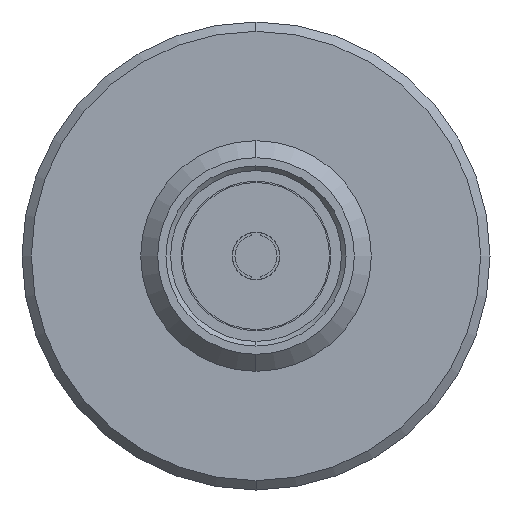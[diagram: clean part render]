
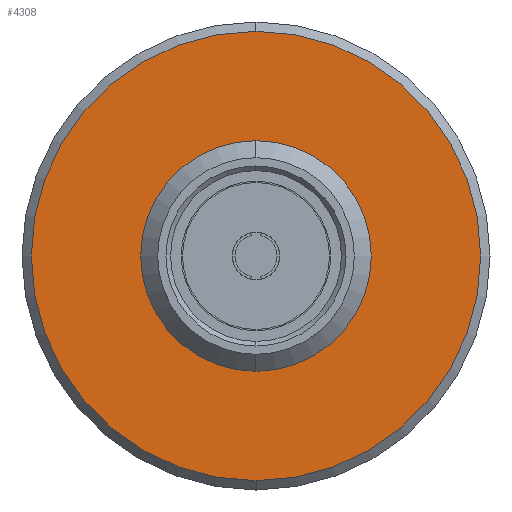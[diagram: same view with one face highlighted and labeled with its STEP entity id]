
A CAD part, left-side view. The second image highlights one B-rep face of the part: STEP entity #4308.
In plain terms, the highlighted planar face has unit normal (-1, 0, 0).
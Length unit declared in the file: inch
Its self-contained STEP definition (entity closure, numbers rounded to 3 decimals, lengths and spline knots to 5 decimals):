
#60 = CARTESIAN_POINT ( 'NONE',  ( 0.24, 0., 0. ) ) ;
#61 = CIRCLE ( 'NONE', #1225, 0.24 ) ;
#207 = EDGE_CURVE ( 'NONE', #3097, #3388, #2801, .T. ) ;
#336 = EDGE_LOOP ( 'NONE', ( #721, #2472 ) ) ;
#362 = DIRECTION ( 'NONE',  ( -1., 0., 0. ) ) ;
#414 = CIRCLE ( 'NONE', #688, 0.105 ) ;
#600 = EDGE_CURVE ( 'NONE', #3388, #3097, #414, .T. ) ;
#688 = AXIS2_PLACEMENT_3D ( 'NONE', #1890, #4198, #2234 ) ;
#721 = ORIENTED_EDGE ( 'NONE', *, *, #207, .F. ) ;
#834 = PLANE ( 'NONE',  #4029 ) ;
#898 = CARTESIAN_POINT ( 'NONE',  ( 0.24, 0., 0.24 ) ) ;
#1059 = ORIENTED_EDGE ( 'NONE', *, *, #4044, .T. ) ;
#1129 = EDGE_LOOP ( 'NONE', ( #1059, #2243 ) ) ;
#1157 = CARTESIAN_POINT ( 'NONE',  ( 0.24, 0.24, 0. ) ) ;
#1172 = DIRECTION ( 'NONE',  ( 1., 0., 0. ) ) ;
#1225 = AXIS2_PLACEMENT_3D ( 'NONE', #3482, #1490, #3821 ) ;
#1337 = CIRCLE ( 'NONE', #2796, 0.24 ) ;
#1417 = EDGE_CURVE ( 'NONE', #1555, #2780, #61, .T. ) ;
#1459 = FACE_OUTER_BOUND ( 'NONE', #1129, .T. ) ;
#1490 = DIRECTION ( 'NONE',  ( -1., 0., 0. ) ) ;
#1555 = VERTEX_POINT ( 'NONE', #898 ) ;
#1694 = AXIS2_PLACEMENT_3D ( 'NONE', #60, #2104, #4075 ) ;
#1890 = CARTESIAN_POINT ( 'NONE',  ( 0.24, 0., 0. ) ) ;
#2104 = DIRECTION ( 'NONE',  ( -1., 0., 0. ) ) ;
#2234 = DIRECTION ( 'NONE',  ( 0., 0., 1. ) ) ;
#2243 = ORIENTED_EDGE ( 'NONE', *, *, #1417, .T. ) ;
#2307 = FACE_BOUND ( 'NONE', #336, .T. ) ;
#2398 = CARTESIAN_POINT ( 'NONE',  ( 0.24, 0., 0. ) ) ;
#2472 = ORIENTED_EDGE ( 'NONE', *, *, #600, .F. ) ;
#2732 = DIRECTION ( 'NONE',  ( 0., 0., 1. ) ) ;
#2780 = VERTEX_POINT ( 'NONE', #3304 ) ;
#2796 = AXIS2_PLACEMENT_3D ( 'NONE', #2398, #362, #2732 ) ;
#2801 = CIRCLE ( 'NONE', #1694, 0.105 ) ;
#3097 = VERTEX_POINT ( 'NONE', #3859 ) ;
#3304 = CARTESIAN_POINT ( 'NONE',  ( 0.24, 0., -0.24 ) ) ;
#3357 = CARTESIAN_POINT ( 'NONE',  ( 0.24, 0., -0.105 ) ) ;
#3388 = VERTEX_POINT ( 'NONE', #3357 ) ;
#3482 = CARTESIAN_POINT ( 'NONE',  ( 0.24, 0., 0. ) ) ;
#3509 = DIRECTION ( 'NONE',  ( 0., 0., -1. ) ) ;
#3821 = DIRECTION ( 'NONE',  ( 0., 0., 1. ) ) ;
#3859 = CARTESIAN_POINT ( 'NONE',  ( 0.24, 0., 0.105 ) ) ;
#4029 = AXIS2_PLACEMENT_3D ( 'NONE', #1157, #1172, #3509 ) ;
#4044 = EDGE_CURVE ( 'NONE', #2780, #1555, #1337, .T. ) ;
#4075 = DIRECTION ( 'NONE',  ( 0., 0., 1. ) ) ;
#4198 = DIRECTION ( 'NONE',  ( -1., 0., 0. ) ) ;
#4308 = ADVANCED_FACE ( 'NONE', ( #2307, #1459 ), #834, .F. ) ;
